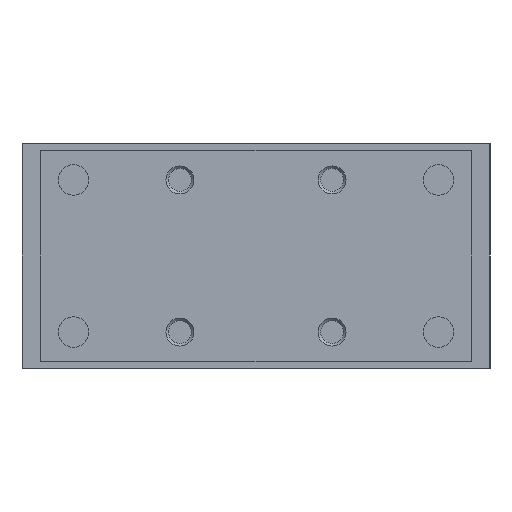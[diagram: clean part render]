
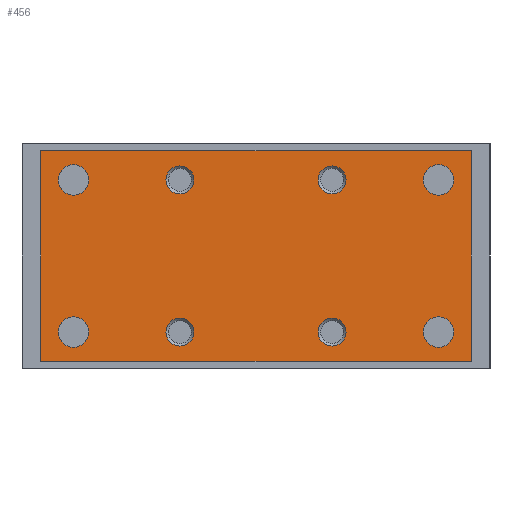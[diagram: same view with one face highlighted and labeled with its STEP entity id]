
A CAD part, left-side view. The second image highlights one B-rep face of the part: STEP entity #456.
In plain terms, the highlighted planar face has unit normal (-1, 0, 0).
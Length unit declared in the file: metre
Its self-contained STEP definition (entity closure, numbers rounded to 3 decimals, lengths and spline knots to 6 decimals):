
#456 = ADVANCED_FACE( '', ( #1104, #1105, #1106, #1107, #1108, #1109, #1110, #1111, #1112 ), #1113, .T. );
#1104 = FACE_BOUND( '', #1924, .T. );
#1105 = FACE_BOUND( '', #1925, .T. );
#1106 = FACE_BOUND( '', #1926, .T. );
#1107 = FACE_BOUND( '', #1927, .T. );
#1108 = FACE_BOUND( '', #1928, .T. );
#1109 = FACE_BOUND( '', #1929, .T. );
#1110 = FACE_BOUND( '', #1930, .T. );
#1111 = FACE_BOUND( '', #1931, .T. );
#1112 = FACE_OUTER_BOUND( '', #1932, .T. );
#1113 = PLANE( '', #1933 );
#1924 = EDGE_LOOP( '', ( #3085 ) );
#1925 = EDGE_LOOP( '', ( #3086 ) );
#1926 = EDGE_LOOP( '', ( #3087 ) );
#1927 = EDGE_LOOP( '', ( #3088 ) );
#1928 = EDGE_LOOP( '', ( #3089 ) );
#1929 = EDGE_LOOP( '', ( #3090 ) );
#1930 = EDGE_LOOP( '', ( #3091 ) );
#1931 = EDGE_LOOP( '', ( #3092 ) );
#1932 = EDGE_LOOP( '', ( #3093, #3094, #3095, #3096 ) );
#1933 = AXIS2_PLACEMENT_3D( '', #3097, #3098, #3099 );
#3085 = ORIENTED_EDGE( '', *, *, #4005, .F. );
#3086 = ORIENTED_EDGE( '', *, *, #4106, .F. );
#3087 = ORIENTED_EDGE( '', *, *, #3898, .F. );
#3088 = ORIENTED_EDGE( '', *, *, #3814, .F. );
#3089 = ORIENTED_EDGE( '', *, *, #3844, .T. );
#3090 = ORIENTED_EDGE( '', *, *, #3860, .F. );
#3091 = ORIENTED_EDGE( '', *, *, #3931, .F. );
#3092 = ORIENTED_EDGE( '', *, *, #4140, .T. );
#3093 = ORIENTED_EDGE( '', *, *, #4141, .T. );
#3094 = ORIENTED_EDGE( '', *, *, #3998, .T. );
#3095 = ORIENTED_EDGE( '', *, *, #4142, .T. );
#3096 = ORIENTED_EDGE( '', *, *, #4143, .T. );
#3097 = CARTESIAN_POINT( '', ( -0.06225, -0.046, -0.0015 ) );
#3098 = DIRECTION( '', ( -1., 0., 0. ) );
#3099 = DIRECTION( '', ( 0., 0., 1. ) );
#3814 = EDGE_CURVE( '', #4380, #4380, #4381, .T. );
#3844 = EDGE_CURVE( '', #4426, #4426, #4427, .T. );
#3860 = EDGE_CURVE( '', #4451, #4451, #4452, .T. );
#3898 = EDGE_CURVE( '', #4514, #4514, #4515, .T. );
#3931 = EDGE_CURVE( '', #4566, #4566, #4567, .T. );
#3998 = EDGE_CURVE( '', #4676, #4674, #4677, .T. );
#4005 = EDGE_CURVE( '', #4686, #4686, #4687, .T. );
#4106 = EDGE_CURVE( '', #4840, #4840, #4841, .T. );
#4140 = EDGE_CURVE( '', #4888, #4888, #4889, .T. );
#4141 = EDGE_CURVE( '', #4890, #4676, #4891, .T. );
#4142 = EDGE_CURVE( '', #4674, #4892, #4893, .T. );
#4143 = EDGE_CURVE( '', #4892, #4890, #4894, .T. );
#4380 = VERTEX_POINT( '', #5175 );
#4381 = CIRCLE( '', #5176, 0.00325 );
#4426 = VERTEX_POINT( '', #5221 );
#4427 = CIRCLE( '', #5222, 0.003 );
#4451 = VERTEX_POINT( '', #5252 );
#4452 = CIRCLE( '', #5253, 0.003 );
#4514 = VERTEX_POINT( '', #5332 );
#4515 = CIRCLE( '', #5333, 0.00325 );
#4566 = VERTEX_POINT( '', #5398 );
#4567 = CIRCLE( '', #5399, 0.003 );
#4674 = VERTEX_POINT( '', #5631 );
#4676 = VERTEX_POINT( '', #5634 );
#4677 = LINE( '', #5635, #5636 );
#4686 = VERTEX_POINT( '', #5647 );
#4687 = CIRCLE( '', #5648, 0.00325 );
#4840 = VERTEX_POINT( '', #5862 );
#4841 = CIRCLE( '', #5863, 0.00325 );
#4888 = VERTEX_POINT( '', #5954 );
#4889 = CIRCLE( '', #5955, 0.003 );
#4890 = VERTEX_POINT( '', #5956 );
#4891 = LINE( '', #5957, #5958 );
#4892 = VERTEX_POINT( '', #5959 );
#4893 = LINE( '', #5960, #5961 );
#4894 = LINE( '', #5962, #5963 );
#5175 = CARTESIAN_POINT( '', ( -0.06225, 0.03575, -0.00775 ) );
#5176 = AXIS2_PLACEMENT_3D( '', #6279, #6280, #6281 );
#5221 = CARTESIAN_POINT( '', ( -0.06225, -0.01625, -0.03725 ) );
#5222 = AXIS2_PLACEMENT_3D( '', #6333, #6334, #6335 );
#5252 = CARTESIAN_POINT( '', ( -0.06225, 0.01625, -0.03725 ) );
#5253 = AXIS2_PLACEMENT_3D( '', #6354, #6355, #6356 );
#5332 = CARTESIAN_POINT( '', ( -0.06225, -0.04225, -0.00775 ) );
#5333 = AXIS2_PLACEMENT_3D( '', #6404, #6405, #6406 );
#5398 = CARTESIAN_POINT( '', ( -0.06225, -0.01625, -0.01075 ) );
#5399 = AXIS2_PLACEMENT_3D( '', #6448, #6449, #6450 );
#5631 = CARTESIAN_POINT( '', ( -0.06225, 0.046, -0.0015 ) );
#5634 = CARTESIAN_POINT( '', ( -0.06225, -0.046, -0.0015 ) );
#5635 = CARTESIAN_POINT( '', ( -0.06225, -0.046, -0.0015 ) );
#5636 = VECTOR( '', #6526, 1. );
#5647 = CARTESIAN_POINT( '', ( -0.06225, -0.04225, -0.04025 ) );
#5648 = AXIS2_PLACEMENT_3D( '', #6532, #6533, #6534 );
#5862 = CARTESIAN_POINT( '', ( -0.06225, 0.03575, -0.04025 ) );
#5863 = AXIS2_PLACEMENT_3D( '', #6674, #6675, #6676 );
#5954 = CARTESIAN_POINT( '', ( -0.06225, 0.01625, -0.01075 ) );
#5955 = AXIS2_PLACEMENT_3D( '', #6709, #6710, #6711 );
#5956 = CARTESIAN_POINT( '', ( -0.06225, -0.046, -0.0465 ) );
#5957 = CARTESIAN_POINT( '', ( -0.06225, -0.046, -0.0465 ) );
#5958 = VECTOR( '', #6712, 1. );
#5959 = CARTESIAN_POINT( '', ( -0.06225, 0.046, -0.0465 ) );
#5960 = CARTESIAN_POINT( '', ( -0.06225, 0.046, -0.0015 ) );
#5961 = VECTOR( '', #6713, 1. );
#5962 = CARTESIAN_POINT( '', ( -0.06225, 0.046, -0.0465 ) );
#5963 = VECTOR( '', #6714, 1. );
#6279 = CARTESIAN_POINT( '', ( -0.06225, 0.039, -0.00775 ) );
#6280 = DIRECTION( '', ( -1., 0., 0. ) );
#6281 = DIRECTION( '', ( 0., -1., 0. ) );
#6333 = CARTESIAN_POINT( '', ( -0.06225, -0.01625, -0.04025 ) );
#6334 = DIRECTION( '', ( 1., 0., 0. ) );
#6335 = DIRECTION( '', ( 0., 0., 1. ) );
#6354 = CARTESIAN_POINT( '', ( -0.06225, 0.01625, -0.04025 ) );
#6355 = DIRECTION( '', ( -1., 0., 0. ) );
#6356 = DIRECTION( '', ( 0., 0., 1. ) );
#6404 = CARTESIAN_POINT( '', ( -0.06225, -0.039, -0.00775 ) );
#6405 = DIRECTION( '', ( -1., 0., 0. ) );
#6406 = DIRECTION( '', ( 0., -1., 0. ) );
#6448 = CARTESIAN_POINT( '', ( -0.06225, -0.01625, -0.00775 ) );
#6449 = DIRECTION( '', ( -1., 0., 0. ) );
#6450 = DIRECTION( '', ( 0., 0., -1. ) );
#6526 = DIRECTION( '', ( 0., 1., 0. ) );
#6532 = CARTESIAN_POINT( '', ( -0.06225, -0.039, -0.04025 ) );
#6533 = DIRECTION( '', ( -1., 0., 0. ) );
#6534 = DIRECTION( '', ( 0., -1., 0. ) );
#6674 = CARTESIAN_POINT( '', ( -0.06225, 0.039, -0.04025 ) );
#6675 = DIRECTION( '', ( -1., 0., 0. ) );
#6676 = DIRECTION( '', ( 0., -1., 0. ) );
#6709 = CARTESIAN_POINT( '', ( -0.06225, 0.01625, -0.00775 ) );
#6710 = DIRECTION( '', ( 1., 0., 0. ) );
#6711 = DIRECTION( '', ( 0., 0., -1. ) );
#6712 = DIRECTION( '', ( 0., 0., 1. ) );
#6713 = DIRECTION( '', ( 0., 0., -1. ) );
#6714 = DIRECTION( '', ( 0., -1., 0. ) );
